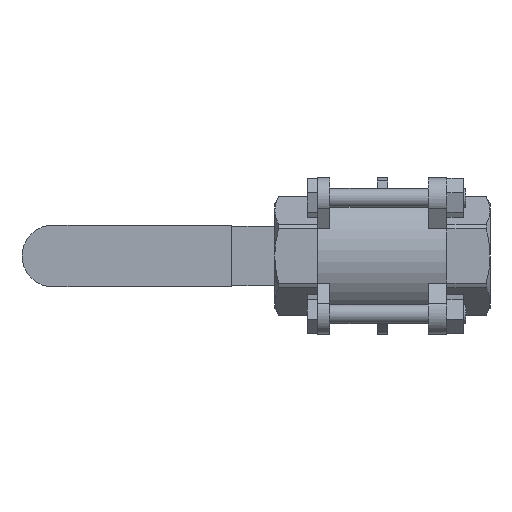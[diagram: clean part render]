
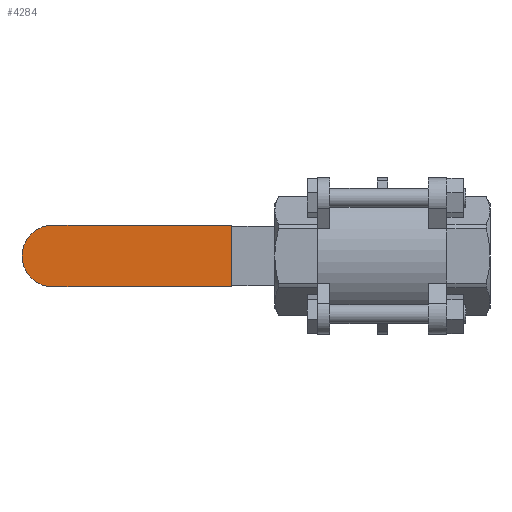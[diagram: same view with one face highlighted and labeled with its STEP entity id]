
A CAD part, front view. The second image highlights one B-rep face of the part: STEP entity #4284.
In plain terms, the highlighted planar face has unit normal (0, -1, 0).
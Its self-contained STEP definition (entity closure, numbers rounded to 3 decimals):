
#8 = DIRECTION ( 'NONE',  ( 0., 0., -1. ) ) ;
#139 = VECTOR ( 'NONE', #9193, 1000. ) ;
#774 = CARTESIAN_POINT ( 'NONE',  ( -56., 70.5, 90.102 ) ) ;
#1000 = AXIS2_PLACEMENT_3D ( 'NONE', #8487, #9228, #4823 ) ;
#1035 = EDGE_CURVE ( 'NONE', #2983, #6261, #3596, .T. ) ;
#1441 = CARTESIAN_POINT ( 'NONE',  ( -122.5, 70.5, 0. ) ) ;
#1700 = ORIENTED_EDGE ( 'NONE', *, *, #6766, .T. ) ;
#1773 = ORIENTED_EDGE ( 'NONE', *, *, #8446, .T. ) ;
#2187 = DIRECTION ( 'NONE',  ( 0., 0., 1. ) ) ;
#2308 = CARTESIAN_POINT ( 'NONE',  ( -134., 70.5, -11.5 ) ) ;
#2449 = VERTEX_POINT ( 'NONE', #5711 ) ;
#2731 = CARTESIAN_POINT ( 'NONE',  ( -56., 70.5, 11.5 ) ) ;
#2983 = VERTEX_POINT ( 'NONE', #2731 ) ;
#3421 = EDGE_LOOP ( 'NONE', ( #1773, #5796, #1700, #4865 ) ) ;
#3596 = LINE ( 'NONE', #774, #7301 ) ;
#3916 = EDGE_CURVE ( 'NONE', #2449, #6158, #4323, .T. ) ;
#4084 = PLANE ( 'NONE',  #1000 ) ;
#4284 = ADVANCED_FACE ( 'NONE', ( #7017 ), #4084, .F. ) ;
#4323 = CIRCLE ( 'NONE', #6774, 11.5 ) ;
#4644 = VECTOR ( 'NONE', #6707, 1000. ) ;
#4778 = CARTESIAN_POINT ( 'NONE',  ( -134., 70.5, 11.5 ) ) ;
#4823 = DIRECTION ( 'NONE',  ( 0., 0., 1. ) ) ;
#4865 = ORIENTED_EDGE ( 'NONE', *, *, #1035, .F. ) ;
#5711 = CARTESIAN_POINT ( 'NONE',  ( -122.5, 70.5, -11.5 ) ) ;
#5796 = ORIENTED_EDGE ( 'NONE', *, *, #3916, .F. ) ;
#6003 = LINE ( 'NONE', #4778, #139 ) ;
#6068 = CARTESIAN_POINT ( 'NONE',  ( -122.5, 70.5, 11.5 ) ) ;
#6158 = VERTEX_POINT ( 'NONE', #6068 ) ;
#6261 = VERTEX_POINT ( 'NONE', #6952 ) ;
#6577 = DIRECTION ( 'NONE',  ( 0., 1., 0. ) ) ;
#6625 = LINE ( 'NONE', #2308, #4644 ) ;
#6707 = DIRECTION ( 'NONE',  ( 1., 0., 0. ) ) ;
#6766 = EDGE_CURVE ( 'NONE', #2449, #6261, #6625, .T. ) ;
#6774 = AXIS2_PLACEMENT_3D ( 'NONE', #1441, #6577, #2187 ) ;
#6952 = CARTESIAN_POINT ( 'NONE',  ( -56., 70.5, -11.5 ) ) ;
#7017 = FACE_OUTER_BOUND ( 'NONE', #3421, .T. ) ;
#7301 = VECTOR ( 'NONE', #8, 1000. ) ;
#8446 = EDGE_CURVE ( 'NONE', #2983, #6158, #6003, .T. ) ;
#8487 = CARTESIAN_POINT ( 'NONE',  ( -134., 70.5, 90.102 ) ) ;
#9193 = DIRECTION ( 'NONE',  ( -1., 0., 0. ) ) ;
#9228 = DIRECTION ( 'NONE',  ( 0., 1., 0. ) ) ;
